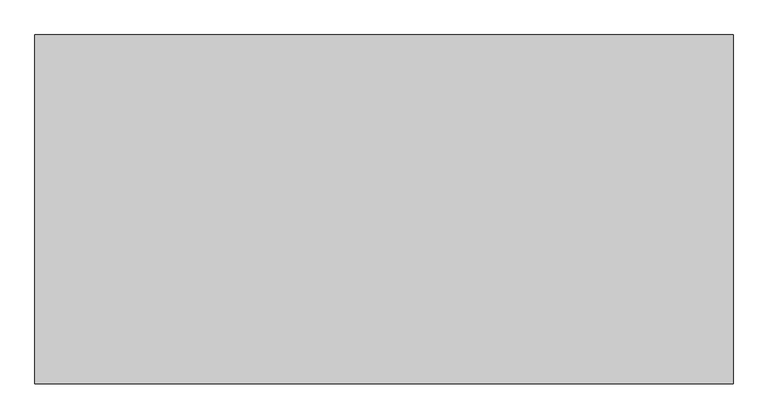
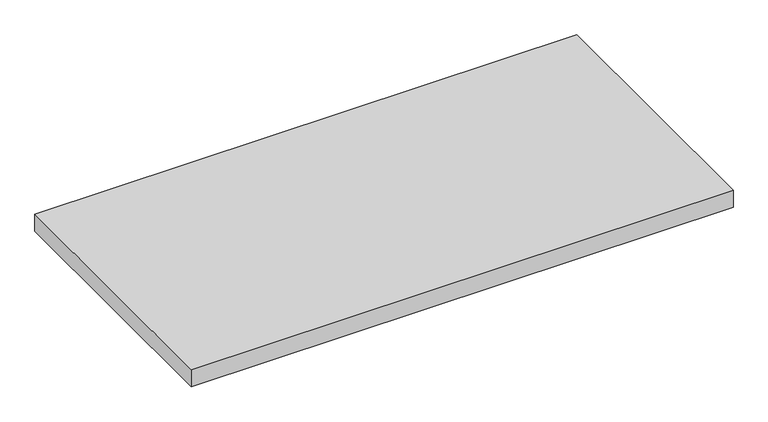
"""IFC4 building model written with IfcOpenShell, lengths in millimetres: proxy geometry, BIMHealth-Worktop-LOD2A-v1 : BIMHealth-Worktop-LOD2A-v1."""

from ifc_helpers import new_model, si_unit, frame, origin, place, context, project, spatial, polyline, outline, extrude, source, transform, mapped, element, save


def generic_models_1c91f556(model_context):
    return source(origin(), model_context, "Body", "SweptSolid", [
        extrude(outline(polyline([(1200.0, 0.0), (1200.0, -600.0), (0.0, -600.0), (0.0, 0.0), (1200.0, 0.0)])), frame((0.0, 0.0, 860.0), z_axis=(0.0, 0.0, 1.0), x_axis=(1.0, 0.0, 0.0)), (0.0, 0.0, 1.0), 40.0),
    ])


if __name__ == "__main__":
    model = new_model("IFC4")
    model_context = context("Model", 3, world=origin())
    ifc_project = project(units=[si_unit("LENGTHUNIT", "METRE", prefix="MILLI")], contexts=[model_context])
    site = spatial("IfcSite", under=ifc_project)
    building = spatial("IfcBuilding", under=site)
    placement = place(None, origin())
    generic_models_shape = generic_models_1c91f556(model_context)
    element("IfcBuildingElementProxy", 1, Name="BIMHealth-Worktop-LOD2A-v1 : BIMHealth-Worktop-LOD2A-v1", ObjectType="BIMHealth-Worktop-LOD2A-v1 : BIMHealth-Worktop-LOD2A-v1", at=placement, inside=building, context=model_context, shape_type="MappedRepresentation", body=[
        mapped(generic_models_shape, transform((0.0, 0.0, 0.0), x_axis=(1.0, 0.0, 0.0), y_axis=(0.0, 1.0, 0.0), z_axis=(0.0, 0.0, 1.0))),
    ])
    save(model, "model.ifc")
